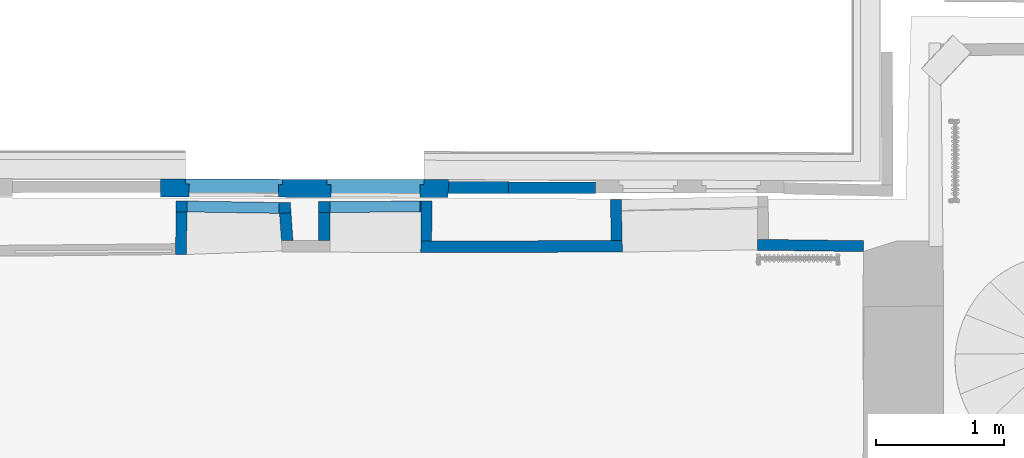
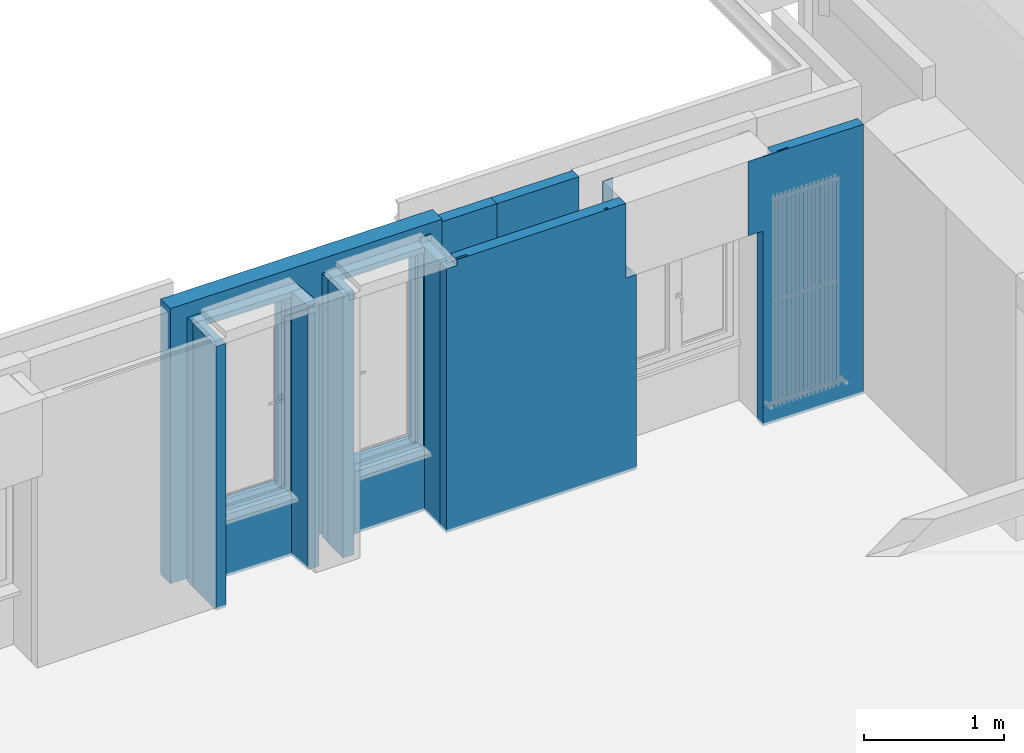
# One storey, part 22 of 72: 12 walls, 4 openings.
"""IFC2X3 building model written with IfcOpenShell, lengths in centimetres."""

from ifc_helpers import new_model, entity, si_unit, converted_unit, direction, frame, origin, origin_with_axes, origin_2d_with_axis, place, context, subcontext, project, spatial, polyline, rectangle, outline, extrude, clip, bounded_halfspace, faceted_brep, shape, material, layer, layer_set, layer_usage, type_object, element, save


model = new_model("IFC2X3")

# Units and contexts
model_context = context("Model", 3, precision=0.0001, world=origin(), true_north=direction((0.225632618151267, 0.974212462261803, 0.0)))
body_context = subcontext(model_context, "Body", "Model", "MODEL_VIEW")
footprint_context = subcontext(model_context, "FootPrint", "Model", "MODEL_VIEW")
profile_context = subcontext(model_context, "Profile", "Model", "MODEL_VIEW")
ifc_project = project(units=[si_unit("LENGTHUNIT", "METRE", prefix="CENTI"), si_unit("AREAUNIT", "SQUARE_METRE", prefix="CENTI"), si_unit("VOLUMEUNIT", "CUBIC_METRE", prefix="CENTI"), converted_unit("PLANEANGLEUNIT", "DEGREE", entity("IfcRatioMeasure", 0.0174532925), si_unit("PLANEANGLEUNIT", "RADIAN"), dimensions=[0, 0, 0, 0, 0, 0, 0])], contexts=[model_context])

# Site, building, storey
site_placement = place(None, origin_with_axes())
site = spatial("IfcSite", under=ifc_project, at=site_placement, Name="Default Site", CompositionType="ELEMENT")
building_placement = place(site_placement, origin_with_axes())
building = spatial("IfcBuilding", under=site, at=building_placement, Name="Default Building", CompositionType="ELEMENT")
storey_placement = place(building_placement, frame((0.0, 0.0, 853.910374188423), z_axis=(0.0, 0.0, 1.0), x_axis=(1.0, 0.0, 0.0)))
storey = spatial("IfcBuildingStorey", under=building, at=storey_placement, Name="Niveau 2", CompositionType="ELEMENT", Elevation=853.910374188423)

# Walls
ifc_material = material(Name="<aucun>")
ifc_layer_1 = layer(ifc_material, 9.0)
ifc_layer_set_1 = layer_set([ifc_layer_1], Name="default")
ifc_layer_usage_1 = layer_usage(ifc_layer_set_1, "AXIS2", "POSITIVE", -4.5)
wall_type_1 = type_object("IfcWallType", Name="default 90", PredefinedType="NOTDEFINED", material=ifc_layer_set_1)
wall_1_placement = place(storey_placement, frame((-91.1326012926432, 605.247543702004, -1.95399252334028e-11), z_axis=(0.0, 0.0, 1.0), x_axis=(0.99999994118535, 0.0003429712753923, 0.0)))
element("IfcWallStandardCase", 1, at=wall_1_placement, inside=storey, type_object=wall_type_1, material=ifc_layer_usage_1, Name="Enveloppe 464513", context=body_context, shape_type="SweptSolid", body=[
    extrude(outline(polyline([(-0.0171794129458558, -4.50000000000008), (47.0435548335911, -4.50000000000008), (47.0440363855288, 4.49999983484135), (0.00649783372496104, 4.49999999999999), (-0.0171794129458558, -4.50000000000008)])), frame((0.0, 0.0, 1.98951966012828e-11), z_axis=(0.0, 0.0, 1.0), x_axis=(1.0, 0.0, 0.0)), (0.0, 0.0, 1.0), 234.999999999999),
])
ifc_layer_usage_2 = layer_usage(ifc_layer_set_1, "AXIS2", "POSITIVE", -4.5)
wall_2_placement = place(storey_placement, frame((23.4054607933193, 604.982582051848, -1.95399252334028e-11), z_axis=(0.0, 0.0, 1.0), x_axis=(-0.999997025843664, 0.00243891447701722, 0.0)))
element("IfcWallStandardCase", 2, at=wall_2_placement, inside=storey, type_object=wall_type_1, material=ifc_layer_usage_2, Name="Enveloppe 464414", context=body_context, shape_type="SweptSolid", body=[
    extrude(outline(polyline([(67.4824763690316, 4.38350052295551), (67.397209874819, 4.38329256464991), (67.3969252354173, 4.49999963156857), (1.11022302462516e-14, 4.4999999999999), (0.00150980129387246, 3.88095541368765), (-0.0999999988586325, 3.88070783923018), (-0.0984891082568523, -6.11929204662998), (0.00024410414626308, -6.11905124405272), (8.32667268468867e-15, -4.50000000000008), (67.4072289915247, -4.50000036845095), (67.4075136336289, -4.61670854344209), (67.507031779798, -4.61646582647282), (67.4824763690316, 4.38350052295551)])), frame((0.0, 0.0, 1.98951966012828e-11), z_axis=(0.0, 0.0, 1.0), x_axis=(1.0, 0.0, 0.0)), (0.0, 0.0, 1.0), 234.999999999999),
])
ifc_layer_usage_3 = layer_usage(ifc_layer_set_1, "AXIS2", "POSITIVE", -4.5)
wall_3_placement = place(storey_placement, frame((-215.896835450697, 555.569694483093, -1.95399252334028e-11), z_axis=(0.0, 0.0, 1.0), x_axis=(-0.0711302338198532, 0.997467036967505, 0.0)))
element("IfcWallStandardCase", 3, at=wall_3_placement, inside=storey, type_object=wall_type_1, material=ifc_layer_usage_3, Name="Enveloppe 739326", context=body_context, shape_type="SweptSolid", body=[
    extrude(outline(polyline([(29.8967863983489, 4.50000000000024), (8.72215223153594, 4.50000000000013), (8.11390704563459, -4.49999999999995), (29.8967863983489, -4.49999999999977), (29.8967863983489, 4.50000000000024)])), frame((0.0, 0.0, 2.00728322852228e-11), z_axis=(0.0, 0.0, 1.0), x_axis=(1.0, 0.0, 0.0)), (0.0, 0.0, 1.0), 230.000000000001),
])
ifc_layer_usage_4 = layer_usage(ifc_layer_set_1, "AXIS2", "POSITIVE", -4.5)
wall_4_placement = place(storey_placement, frame((-187.752417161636, 554.967033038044, -1.95399252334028e-11), z_axis=(0.0, 0.0, 1.0), x_axis=(0.00621586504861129, 0.999980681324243, 0.0)))
element("IfcWallStandardCase", 4, at=wall_4_placement, inside=storey, type_object=wall_type_1, material=ifc_layer_usage_4, Name="Enveloppe 739246", context=body_context, shape_type="SweptSolid", body=[
    extrude(outline(polyline([(9.06172817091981, 4.50000000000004), (9.15106573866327, -4.49999999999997), (30.9224302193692, -4.49999999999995), (30.8329025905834, 4.50000000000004), (9.06172817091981, 4.50000000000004)])), frame((0.0, 0.0, 1.97175609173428e-11), z_axis=(0.0, 0.0, 1.0), x_axis=(1.0, 0.0, 0.0)), (0.0, 0.0, 1.0), 230.000000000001),
])
ifc_layer_usage_5 = layer_usage(ifc_layer_set_1, "AXIS2", "POSITIVE", -4.5)
wall_5_placement = place(storey_placement, frame((-116.775645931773, 558.996476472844, 1.4210854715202e-12), z_axis=(0.0, 0.0, 1.0), x_axis=(0.999995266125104, 0.00307696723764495, 0.0)))
element("IfcWallStandardCase", 5, at=wall_5_placement, inside=storey, type_object=wall_type_1, material=ifc_layer_usage_5, Name="Enveloppe 163764", context=body_context, shape_type="Clipping", body=[
    clip(clip(clip(clip(extrude(outline(polyline([(4.19873202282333, -4.4999999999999), (161.21133318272, -4.49999999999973), (161.040328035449, 4.50000000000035), (4.26751447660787, 4.49999999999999), (4.19873202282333, -4.4999999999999)])), frame((0.0, 0.0, -8.88178419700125e-13), z_axis=(0.0, 0.0, 1.0), x_axis=(1.0, 0.0, 0.0)), (0.0, 0.0, 1.0), 234.999999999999), bounded_halfspace(frame((138.485639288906, -3.62070629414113, 168.999999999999), z_axis=(0.0, 0.0, -1.0), x_axis=(0.0655100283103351, 0.997851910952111, 0.0)), True, frame((138.485639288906, -3.62070629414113, 168.999999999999), z_axis=(0.0, 0.0, 1.0), x_axis=(1.0, 0.0, 0.0)), polyline([(-2.86253170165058, -0.00798768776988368), (0.0, 8.88178419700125e-14), (0.0913269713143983, 1.39109683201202), (-2.70243137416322, 1.39379675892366), (-2.86253170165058, -0.00798768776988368)]))), bounded_halfspace(frame((13.1275092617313, -2.10837336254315, 168.999999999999), z_axis=(0.0, 0.0, -1.0), x_axis=(0.0869432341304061, -0.996213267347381, 0.0)), True, frame((13.1275092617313, -2.10837336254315, 168.999999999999), z_axis=(0.0, 0.0, 1.0), x_axis=(1.0, 0.0, 0.0)), polyline([(0.0, 0.0), (0.162475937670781, -1.86168235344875), (9.19448650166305, -1.83647918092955), (9.03497217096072, -0.00873152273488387), (0.0, 0.0)]))), bounded_halfspace(frame((152.53879383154, 4.50000000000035, 169.999999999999), z_axis=(0.0, 0.0, -1.0), x_axis=(1.85008258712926e-15, -1.0, 0.0)), True, frame((152.53879383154, 4.50000000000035, 169.999999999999), z_axis=(0.0, 0.0, 1.0), x_axis=(1.0, 0.0, 0.0)), polyline([(0.0, -8.99999999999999), (8.67253935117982, -9.00000000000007), (8.50153420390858, 0.0), (0.0, 8.88178419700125e-14), (0.0, -8.99999999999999)]))), bounded_halfspace(frame((12.8677627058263, 4.50000000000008, 230.0), z_axis=(0.0, 0.0, -1.0), x_axis=(-1.0, 1.96522052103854e-13, 0.0)), True, frame((12.8677627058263, 4.50000000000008, 230.0), z_axis=(0.0, 0.0, 1.0), x_axis=(1.0, 0.0, 0.0)), polyline([(-8.66903068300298, -8.99999999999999), (2.22044604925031e-14, -9.00000000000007), (0.0, 0.0), (-8.60024822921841, -8.88178419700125e-14), (-8.66903068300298, -8.99999999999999)]))),
])

# Wall, openings
ifc_layer_2 = layer(ifc_material, 14.0)
ifc_layer_set_2 = layer_set([ifc_layer_2], Name="default")
ifc_layer_usage_6 = layer_usage(ifc_layer_set_2, "AXIS2", "POSITIVE", -7.0)
wall_type_2 = type_object("IfcWallType", Name="default 140", PredefinedType="NOTDEFINED", material=ifc_layer_set_2)
wall_6_placement = place(storey_placement, frame((-91.1399636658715, 604.363917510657, -1.95399252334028e-11), z_axis=(0.0, 0.0, 1.0), x_axis=(-0.999997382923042, 0.0022878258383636, 0.0)))
wall_6 = element("IfcWallStandardCase", 6, at=wall_6_placement, inside=storey, type_object=wall_type_2, material=ifc_layer_usage_6, Name="Enveloppe 740281", context=body_context, shape_type="SweptSolid", body=[
    extrude(rectangle(XDim=14.0, YDim=223.931579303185, at=origin_2d_with_axis()), frame((111.965789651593, -8.88178419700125e-14, 1.97175609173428e-11), z_axis=(0.0, 0.0, 1.0), x_axis=(-7.78457159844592e-16, -1.0, 0.0)), (0.0, 0.0, 1.0), 240.000000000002),
])
opening_1_placement = place(wall_6_placement, frame((129.221935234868, 0.0, 50.0000000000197), z_axis=(0.0, 0.0, 1.0), x_axis=(-1.0, 7.74987712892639e-16, 0.0)))
cartesian_point_1 = entity("IfcCartesianPoint", [0.0, 0.0, 175.477754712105])
cartesian_point_2 = entity("IfcCartesianPoint", [-75.4054445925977, -6.99999999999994])
element("IfcOpeningElement", 7, at=opening_1_placement, cuts=wall_6, Name="Baie 740524", ObjectType="Opening", shapes=[
    shape(body_context, "Body", "Brep", [faceted_brep([(-2.9999898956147, -27.0000155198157, 175.477767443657), (-72.4054411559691, -27.0000155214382, 175.477767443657), (-72.4054411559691, -27.0000155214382, -2.33888627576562e-05), (-2.9999898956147, -27.0000155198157, -2.33888627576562e-05), (-2.92440898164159e-06, 27.0000236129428, -2.33888627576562e-05), (-75.4054402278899, 27.0000236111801, -2.33888627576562e-05), (-75.4054402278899, 27.0000236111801, 175.477767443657), (-2.92440898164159e-06, 27.0000236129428, 175.477767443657), (-2.99998989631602, 2.99998665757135, -2.33888627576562e-05), (-2.99998989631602, 2.99998665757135, 175.477767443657), (-3.00000780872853, 2.99998665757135, 175.477767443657), (-3.00000780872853, 2.99998665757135, -2.33888627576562e-05), (-2.81172152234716e-06, 2.99998665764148, -2.33888627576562e-05), (-2.81172152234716e-06, 2.99998665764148, 175.477767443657), (-2.81172152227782e-06, 2.99998369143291, 175.477767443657), (-2.81172152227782e-06, 2.99998369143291, -2.33888627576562e-05), (-2.81228258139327e-06, 27.0000236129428, -2.33888627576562e-05), (-2.81228258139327e-06, 27.0000236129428, 175.477767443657), (-72.4054411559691, -27.0000163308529, -2.33888627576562e-05), (-72.4054352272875, 2.99998590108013, -2.33888627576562e-05), (-75.4054402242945, 2.99998886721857, -2.33888627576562e-05), (-75.4054402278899, 26.9999811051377, -2.33888627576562e-05), (-72.4054411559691, -27.0000163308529, 175.477767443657), (-72.4054411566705, 2.99998590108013, 175.477767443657), (-72.4054411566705, 2.99998590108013, -2.33888627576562e-05), (-72.4054352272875, 2.99998590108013, 175.477767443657), (-75.4054402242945, 2.99998590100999, 175.477767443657), (-75.4054402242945, 2.99998590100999, -2.33888627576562e-05), (-75.4054402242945, 2.99998886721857, 175.477767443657), (-75.4054402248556, 26.9999811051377, 175.477767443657), (-75.4054402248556, 26.9999811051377, -2.33888627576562e-05), (-75.4054402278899, 26.9999811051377, 175.477767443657)], [[[0, 1, 2, 3]], [[4, 5, 6, 7]], [[0, 3, 8, 9]], [[10, 11, 12, 13]], [[14, 15, 16, 17]], [[3, 18, 19, 20, 21, 4, 15, 11]], [[18, 22, 23, 24]], [[19, 25, 26, 27]], [[20, 28, 29, 30]], [[10, 14, 7, 31, 28, 25, 22, 0]]])]),
    shape(profile_context, "Profile", "GeometricCurveSet", [entity("IfcGeometricCurveSet", [entity("IfcPolyline", [cartesian_point_1, entity("IfcCartesianPoint", [0.0, 0.0, -1.77635683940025e-13]), entity("IfcCartesianPoint", [-75.4054445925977, 0.0, -1.77635683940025e-13]), entity("IfcCartesianPoint", [-75.4054445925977, 0.0, 175.477754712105]), cartesian_point_1])])]),
    shape(footprint_context, "FootPrint", "GeometricCurveSet", [entity("IfcGeometricCurveSet", [entity("IfcPolyline", [cartesian_point_2, entity("IfcCartesianPoint", [4.44089209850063e-14, -6.99999999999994]), entity("IfcCartesianPoint", [0.0, 6.99999999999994]), entity("IfcCartesianPoint", [-75.4054445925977, 6.99999999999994]), cartesian_point_2])])]),
])
opening_2_placement = place(wall_6_placement, frame((18.8943299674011, 0.0, 50.0000000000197), z_axis=(0.0, 0.0, 1.0), x_axis=(-1.0, 7.74987712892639e-16, 0.0)))
cartesian_point_3 = entity("IfcCartesianPoint", [0.0, 0.0, 174.91990147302])
cartesian_point_4 = entity("IfcCartesianPoint", [-75.39017954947, -6.99999999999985])
element("IfcOpeningElement", 8, at=opening_2_placement, cuts=wall_6, Name="Baie 740523", ObjectType="Opening", shapes=[
    shape(body_context, "Body", "Brep", [faceted_brep([(-3.00000306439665, -26.9999951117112, 174.919867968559), (-72.3901835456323, -26.9999951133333, 174.919867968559), (-72.3901835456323, -26.9999951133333, -2.33888627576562e-05), (-3.00000306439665, -26.9999951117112, -2.33888627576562e-05), (-4.06320113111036e-06, 26.9999963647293, -2.33888627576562e-05), (-75.390182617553, 26.9999963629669, -2.33888627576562e-05), (-75.390182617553, 26.9999963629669, 174.919867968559), (-4.06320113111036e-06, 26.9999963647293, 174.919867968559), (-3.00000306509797, 3.00000712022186, -2.33888627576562e-05), (-3.00000306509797, 3.00000712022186, 174.919867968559), (-2.99999713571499, 3.00000712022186, 174.919867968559), (-2.99999713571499, 3.00000712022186, -2.33888627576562e-05), (-4.05960576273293e-06, 3.00000712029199, -2.33888627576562e-05), (-4.05960576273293e-06, 3.00000712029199, 174.919867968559), (-4.05960576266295e-06, 3.00000412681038, 174.919867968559), (-4.05960574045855e-06, 3.00000412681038, -2.33888627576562e-05), (-4.06016679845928e-06, 26.9999963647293, -2.33888627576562e-05), (-4.06016682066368e-06, 26.9999963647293, 174.919867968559), (-72.3901835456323, -27.0000086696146, -2.33888627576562e-05), (-72.3901776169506, 2.99999356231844, -2.33888627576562e-05), (-75.3901826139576, 2.99999652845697, -2.33888627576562e-05), (-75.390182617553, 26.9999887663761, -2.33888627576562e-05), (-4.05960576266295e-06, 3.00000412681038, -2.33888627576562e-05), (-72.3901835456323, -27.0000086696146, 174.919867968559), (-72.3901835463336, 2.99999356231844, 174.919867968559), (-72.3901835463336, 2.99999356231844, -2.33888627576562e-05), (-72.3901776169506, 2.99999356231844, 174.919867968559), (-75.3901826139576, 2.9999935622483, 174.919867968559), (-75.3901826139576, 2.9999935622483, -2.33888627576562e-05), (-75.3901826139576, 2.99999652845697, 174.919867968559), (-75.3901826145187, 26.9999887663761, 174.919867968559), (-75.3901826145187, 26.9999887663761, -2.33888627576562e-05), (-75.390182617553, 26.9999887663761, 174.919867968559)], [[[0, 1, 2, 3]], [[4, 5, 6, 7]], [[0, 3, 8, 9]], [[10, 11, 12, 13]], [[14, 15, 16, 17]], [[3, 18, 19, 20, 21, 4, 22, 11]], [[18, 23, 24, 25]], [[19, 26, 27, 28]], [[20, 29, 30, 31]], [[10, 14, 7, 32, 29, 26, 23, 0]]])]),
    shape(profile_context, "Profile", "GeometricCurveSet", [entity("IfcGeometricCurveSet", [entity("IfcPolyline", [cartesian_point_3, entity("IfcCartesianPoint", [0.0, 0.0, -1.77635683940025e-13]), entity("IfcCartesianPoint", [-75.39017954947, 8.88178419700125e-14, -1.77635683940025e-13]), entity("IfcCartesianPoint", [-75.39017954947, 8.88178419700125e-14, 174.91990147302]), cartesian_point_3])])]),
    shape(footprint_context, "FootPrint", "GeometricCurveSet", [entity("IfcGeometricCurveSet", [entity("IfcPolyline", [cartesian_point_4, entity("IfcCartesianPoint", [2.22044604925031e-14, -6.99999999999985]), entity("IfcCartesianPoint", [0.0, 7.00000000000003]), entity("IfcCartesianPoint", [-75.3901795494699, 7.00000000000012]), cartesian_point_4])])]),
])

# Wall, opening
ifc_layer_3 = layer(ifc_material, 8.5)
ifc_layer_set_3 = layer_set([ifc_layer_3], Name="default")
ifc_layer_usage_7 = layer_usage(ifc_layer_set_3, "AXIS2", "POSITIVE", -4.25)
wall_type_3 = type_object("IfcWallType", Name="default 85", PredefinedType="NOTDEFINED", material=ifc_layer_set_3)
wall_7_placement = place(storey_placement, frame((-222.895406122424, 589.327121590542, 1.4210854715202e-12), z_axis=(0.0, 0.0, 1.0), x_axis=(-0.999879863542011, 0.0155002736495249, 0.0)))
wall_7 = element("IfcWallStandardCase", 9, at=wall_7_placement, inside=storey, type_object=wall_type_3, material=ifc_layer_usage_7, Name="Enveloppe 166655", context=body_context, shape_type="SweptSolid", body=[
    extrude(outline(polyline([(80.0620513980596, 4.24999999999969), (-0.449333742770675, 4.25000000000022), (-9.4155357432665, 3.47075569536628), (-8.74453202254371, -4.24999999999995), (80.0830779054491, -4.25000000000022), (80.0620513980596, 4.24999999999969)])), frame((0.0, 0.0, 3.5527136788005e-13), z_axis=(0.0, 0.0, 1.0), x_axis=(1.0, 0.0, 0.0)), (0.0, 0.0, 1.0), 229.999999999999),
])
opening_3_placement = place(wall_7_placement, frame((0.136946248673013, 0.0, 56.9999999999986), z_axis=(0.0, 0.0, 1.0), x_axis=(1.0, -3.3879149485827e-15, 0.0)))
cartesian_point_5 = entity("IfcCartesianPoint", [0.0, 8.88178419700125e-14, 168.0])
cartesian_point_6 = entity("IfcCartesianPoint", [71.4250791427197, 4.25000000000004])
element("IfcOpeningElement", 10, at=opening_3_placement, cuts=wall_7, Name="4294966438_11", ObjectType="Opening", shapes=[
    shape(body_context, "Body", "SweptSolid", [extrude(outline(polyline([(0.0, 168.0), (0.0, -2.99999999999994), (71.4250791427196, -2.99999999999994), (71.4250791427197, 168.0), (0.0, 168.0)])), frame((0.0, 14.25, 0.0), z_axis=(0.0, -1.0, 0.0), x_axis=(1.0, 0.0, 0.0)), (0.0, 0.0, 1.0), 28.5)]),
    shape(profile_context, "Profile", "GeometricCurveSet", [entity("IfcGeometricCurveSet", [entity("IfcPolyline", [cartesian_point_5, entity("IfcCartesianPoint", [0.0, 8.88178419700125e-14, 0.0]), entity("IfcCartesianPoint", [71.4250791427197, 8.88178419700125e-14, 0.0]), entity("IfcCartesianPoint", [71.4250791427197, 8.88178419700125e-14, 168.0]), cartesian_point_5])])]),
    shape(footprint_context, "FootPrint", "GeometricCurveSet", [entity("IfcGeometricCurveSet", [entity("IfcPolyline", [cartesian_point_6, entity("IfcCartesianPoint", [0.0, 4.25000000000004]), entity("IfcCartesianPoint", [4.44089209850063e-14, -4.24999999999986]), entity("IfcCartesianPoint", [71.4250791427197, -4.24999999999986]), cartesian_point_6])])]),
])

# Walls
ifc_layer_usage_8 = layer_usage(ifc_layer_set_3, "AXIS2", "POSITIVE", -4.25)
wall_8_placement = place(storey_placement, frame((-299.191809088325, 553.431239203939, 1.4210854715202e-12), z_axis=(0.0, 0.0, 1.0), x_axis=(0.0130268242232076, 0.999915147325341, 0.0)))
element("IfcWallStandardCase", 11, at=wall_8_placement, inside=storey, type_object=wall_type_3, material=ifc_layer_usage_8, Name="Enveloppe 166745", context=body_context, shape_type="SweptSolid", body=[
    extrude(outline(polyline([(0.934204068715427, 4.25000000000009), (-0.492890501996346, 4.21814924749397), (-0.303893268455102, -4.25), (32.813772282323, -4.24999999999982), (32.8347987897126, 4.25000000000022), (0.934204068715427, 4.25000000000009)])), frame((0.0, 0.0, -1.77635683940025e-13), z_axis=(0.0, 0.0, 1.0), x_axis=(1.0, 0.0, 0.0)), (0.0, 0.0, 1.0), 230.0),
])
ifc_layer_usage_9 = layer_usage(ifc_layer_set_3, "AXIS2", "POSITIVE", -4.25)
wall_9_placement = place(storey_placement, frame((40.1996688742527, 554.904936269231, 1.4210854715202e-12), z_axis=(0.0, 0.0, 1.0), x_axis=(-0.0220734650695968, 0.999756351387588, 0.0)))
element("IfcWallStandardCase", 12, at=wall_9_placement, inside=storey, type_object=wall_type_3, material=ifc_layer_usage_9, Name="Enveloppe 163740", context=body_context, shape_type="Clipping", body=[
    clip(clip(extrude(outline(polyline([(40.9062418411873, 4.24999999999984), (9.15691906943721, 4.24999999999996), (8.99541420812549, -4.25000000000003), (40.9245339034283, -4.23166844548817), (40.9062418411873, 4.24999999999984)])), frame((0.0, 0.0, 3.5527136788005e-13), z_axis=(0.0, 0.0, 1.0), x_axis=(1.0, 0.0, 0.0)), (0.0, 0.0, 1.0), 234.999999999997), bounded_halfspace(frame((8.99541420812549, -4.25000000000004, 169.999999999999), z_axis=(0.0, 0.0, -1.0), x_axis=(1.0, -5.98826543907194e-15, 0.0)), True, frame((8.99541420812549, -4.25000000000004, 169.999999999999), z_axis=(0.0, 0.0, 1.0), x_axis=(1.0, 0.0, 0.0)), polyline([(0.0, 0.0), (22.9988639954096, -1.4432899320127e-13), (23.045828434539, 8.4999999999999), (0.161504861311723, 8.49999999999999), (0.0, 0.0)]))), bounded_halfspace(frame((40.9245339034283, -4.23166844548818, 169.999999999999), z_axis=(0.0, 0.0, -1.0), x_axis=(-0.00215665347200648, 0.999997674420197, 0.0)), True, frame((40.9245339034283, -4.23166844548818, 169.999999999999), z_axis=(0.0, 0.0, 1.0), x_axis=(1.0, 0.0, 0.0)), polyline([(-8.51556482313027, -0.0183315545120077), (-8.88178419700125e-14, 0.0), (-0.0182920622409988, 8.481668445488), (-8.51556482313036, 8.48166844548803), (-8.51556482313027, -0.0183315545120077)]))),
])
ifc_layer_usage_10 = layer_usage(ifc_layer_set_3, "AXIS2", "POSITIVE", -4.25)
wall_10_placement = place(storey_placement, frame((234.07029062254, 559.552137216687, 1.4210854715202e-12), z_axis=(0.0, 0.0, 1.0), x_axis=(-0.999919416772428, 0.0126948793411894, 0.0)))
element("IfcWallStandardCase", 13, at=wall_10_placement, inside=storey, type_object=wall_type_3, material=ifc_layer_usage_10, Name="Enveloppe 163643", context=body_context, shape_type="Clipping", body=[
    clip(clip(clip(extrude(outline(polyline([(96.6897686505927, 4.25000000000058), (2.07130166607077, 4.24999999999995), (2.0713016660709, -4.24999999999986), (84.4523500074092, -4.24999999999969), (84.2660961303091, 3.88656226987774), (96.6897686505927, 4.25000000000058)])), frame((0.0, 0.0, -3.5527136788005e-13), z_axis=(0.0, 0.0, 1.0), x_axis=(1.0, 0.0, 0.0)), (0.0, 0.0, 1.0), 234.999999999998), bounded_halfspace(frame((96.6897686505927, 4.25000000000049, 169.999999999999), z_axis=(0.0, 0.0, 1.0), x_axis=(-0.999572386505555, -0.0292411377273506, 0.0)), True, frame((96.6897686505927, 4.25000000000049, 169.999999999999), z_axis=(0.0, 0.0, 1.0), x_axis=(1.0, 0.0, 0.0)), polyline([(-12.4236725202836, -0.36343773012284), (-12.4319919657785, 0.0), (0.0, -8.88178419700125e-14), (-12.4236725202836, -0.36343773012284)]))), bounded_halfspace(frame((63.3511968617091, 2.45728144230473, 169.0), z_axis=(0.0, 0.0, -1.0), x_axis=(0.999505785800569, 0.0314353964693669, 0.0)), True, frame((63.3511968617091, 2.45728144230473, 169.0), z_axis=(0.0, 0.0, 1.0), x_axis=(1.0, 0.0, 0.0)), polyline([(-0.167172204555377, 1.22038239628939), (-2.22044604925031e-14, 0.0), (9.04507912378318, 0.284476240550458), (8.89383275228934, 1.38859764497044), (-0.167172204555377, 1.22038239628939)]))), bounded_halfspace(frame((84.2660961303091, 3.88656226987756, 169.999999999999), z_axis=(0.0, 0.0, -1.0), x_axis=(-0.999572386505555, -0.0292411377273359, 0.0)), True, frame((84.2660961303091, 3.88656226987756, 169.999999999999), z_axis=(0.0, 0.0, 1.0), x_axis=(1.0, 0.0, 0.0)), polyline([(-8.31597281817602, -8.13656226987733), (0.186253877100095, -8.13656226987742), (0.0, 0.0), (-8.31597281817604, -0.243272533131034), (-8.31597281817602, -8.13656226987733)]))),
])

# Wall, opening
ifc_layer_usage_11 = layer_usage(ifc_layer_set_3, "AXIS2", "POSITIVE", -4.25)
wall_11_placement = place(storey_placement, frame((-185.212657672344, 590.10289296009, 1.4210854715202e-12), z_axis=(0.0, 0.0, 1.0), x_axis=(0.999993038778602, 0.00373127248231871, 0.0)))
wall_11 = element("IfcWallStandardCase", 14, at=wall_11_placement, inside=storey, type_object=wall_type_3, material=ifc_layer_usage_11, Name="Enveloppe 164347", context=body_context, shape_type="SweptSolid", body=[
    extrude(outline(polyline([(-6.86392508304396, -4.24999999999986), (72.7785545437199, -4.24999999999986), (72.8490777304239, 4.25000000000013), (-6.77937121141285, 4.24999999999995), (-6.86392508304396, -4.24999999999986)])), frame((0.0, 0.0, -5.32907051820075e-13), z_axis=(0.0, 0.0, 1.0), x_axis=(1.0, 0.0, 0.0)), (0.0, 0.0, 1.0), 230.0),
])
opening_4_placement = place(wall_11_placement, frame((2.13652019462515, 0.0, 56.9999999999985), z_axis=(0.0, 0.0, 1.0), x_axis=(-1.0, 1.14491749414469e-16, 0.0)))
cartesian_point_7 = entity("IfcCartesianPoint", [0.0, -8.88178419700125e-14, 168.0])
cartesian_point_8 = entity("IfcCartesianPoint", [-70.0844428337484, -4.25000000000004])
element("IfcOpeningElement", 15, at=opening_4_placement, cuts=wall_11, Name="4294966437_11", ObjectType="Opening", shapes=[
    shape(body_context, "Body", "SweptSolid", [extrude(outline(polyline([(0.0, 168.0), (0.0, -2.99999999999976), (70.0844428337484, -2.99999999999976), (70.0844428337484, 168.0), (0.0, 168.0)])), frame((0.0, -14.25, 0.0), z_axis=(0.0, 1.0, 0.0), x_axis=(-1.0, 0.0, 0.0)), (0.0, 0.0, 1.0), 28.5)]),
    shape(profile_context, "Profile", "GeometricCurveSet", [entity("IfcGeometricCurveSet", [entity("IfcPolyline", [cartesian_point_7, entity("IfcCartesianPoint", [0.0, -8.88178419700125e-14, 1.77635683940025e-13]), entity("IfcCartesianPoint", [-70.0844428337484, -8.88178419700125e-14, 1.77635683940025e-13]), entity("IfcCartesianPoint", [-70.0844428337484, -8.88178419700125e-14, 168.0]), cartesian_point_7])])]),
    shape(footprint_context, "FootPrint", "GeometricCurveSet", [entity("IfcGeometricCurveSet", [entity("IfcPolyline", [cartesian_point_8, entity("IfcCartesianPoint", [0.0, -4.25000000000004]), entity("IfcCartesianPoint", [0.0, 4.24999999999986]), entity("IfcCartesianPoint", [-70.0844428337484, 4.24999999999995]), cartesian_point_8])])]),
])

# Wall
ifc_layer_usage_12 = layer_usage(ifc_layer_set_3, "AXIS2", "POSITIVE", -4.25)
wall_12_placement = place(storey_placement, frame((-108.313131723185, 554.490014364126, 1.4210854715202e-12), z_axis=(0.0, 0.0, 1.0), x_axis=(0.00456535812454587, 0.999989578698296, 0.0)))
element("IfcWallStandardCase", 16, at=wall_12_placement, inside=storey, type_object=wall_type_3, material=ifc_layer_usage_12, Name="Enveloppe 163787", context=body_context, shape_type="Clipping", body=[
    clip(clip(extrude(outline(polyline([(9.00026283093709, 4.25000000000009), (9.06522403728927, -4.24999999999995), (40.1862072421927, -4.24999999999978), (40.1156840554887, 4.25000000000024), (9.00026283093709, 4.25000000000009)])), frame((0.0, 0.0, -5.32907051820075e-13), z_axis=(0.0, 0.0, 1.0), x_axis=(1.0, 0.0, 0.0)), (0.0, 0.0, 1.0), 234.999999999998), bounded_halfspace(frame((36.4644831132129, -4.2499999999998, 230.0), z_axis=(0.0, 0.0, -1.0), x_axis=(0.00162283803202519, 0.999998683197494, 0.0)), True, frame((36.4644831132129, -4.2499999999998, 230.0), z_axis=(0.0, 0.0, 1.0), x_axis=(1.0, 0.0, 0.0)), polyline([(-27.4642202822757, 8.49999999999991), (-27.3992590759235, -1.55431223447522e-13), (-8.88178419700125e-14, 0.0), (0.0137941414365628, 8.5), (-27.4642202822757, 8.49999999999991)]))), bounded_halfspace(frame((40.1156840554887, 4.25000000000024, 230.0), z_axis=(0.0, 0.0, -1.0), x_axis=(-1.0, -9.18189135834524e-15, 0.0)), True, frame((40.1156840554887, 4.25000000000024, 230.0), z_axis=(0.0, 0.0, 1.0), x_axis=(1.0, 0.0, 0.0)), polyline([(-2.36760797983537, -8.50000000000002), (0.0705231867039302, -8.50000000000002), (0.0, 0.0), (-2.36760797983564, -2.22044604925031e-14), (-2.36760797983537, -8.50000000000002)]))),
])

save(model, "model.ifc")
